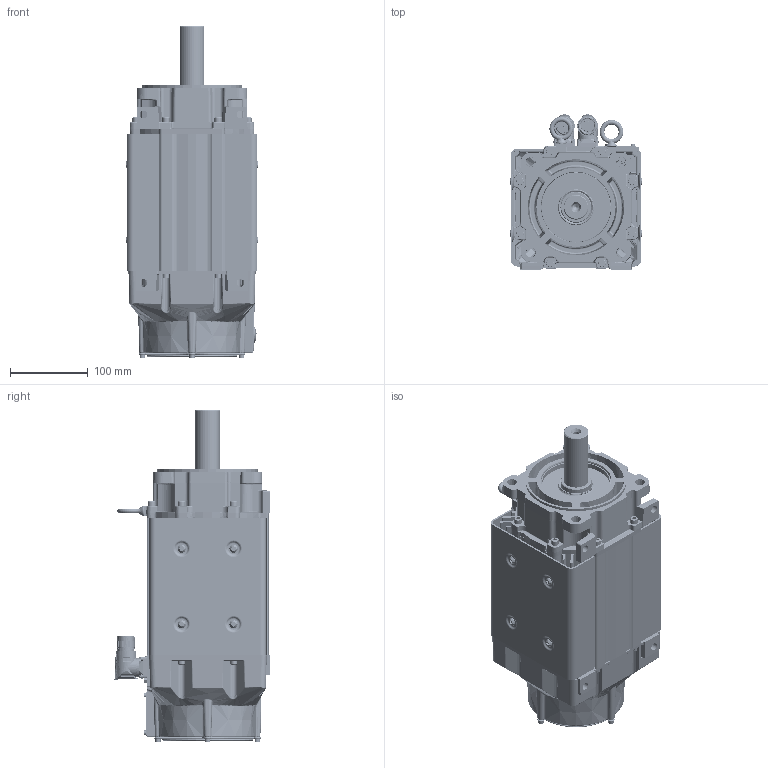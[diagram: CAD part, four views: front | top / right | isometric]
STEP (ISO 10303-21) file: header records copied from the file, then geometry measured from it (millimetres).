
FILE_DESCRIPTION((''),'2;1');
FILE_NAME('VPC-B1652A-YK72FX_ASM','2016-09-27T',('SRGaddam'),('Rockwell Automation'),'PRO/ENGINEER BY PARAMETRIC TECHNOLOGY CORPORATION, 2012480','PRO/ENGINEER BY PARAMETRIC TECHNOLOGY CORPORATION, 2012480','');
FILE_SCHEMA(('CONFIG_CONTROL_DESIGN'));
Products named in the file (42): 10001392731_AF0; 10001392729_AF3; 10001392735_ASM; CH25X125; 10001406948; 0019-1060; 10001419793; 10001587021; 10001383815_AF63; 10001383705_AF59; 10001383836_ASM; 10001421128; 10001933608; 10001713557; 10001713565_ASM; 91290A148BR; 10001289776; CH4X050; 10001336508; 10001409703; 10001587458; 91290A115; 10001299929; 10001284567; 10001430805; 10001587431; 10000231113; 10001430839_ASM; 10001609981; 0002-5006; 10001586879; 10001393622_KEYLESS; 142413_923; PRT0001_923; 142413-1_923_ASM; 10000172464; M923_ASM; 142414_623; 135798_623; 142414-1_623_ASM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
Assembly tree (82 placements, depth 4):
  VPC-B1652A-YK72FX_ASM
    10001392735_ASM
      10001392731_AF0
      10001392729_AF3
    CH25X125  x8
    10001406948
    0019-1060
    10001419793  x2
    10001587021  x8
    10001383836_ASM
      10001383815_AF63
      10001383705_AF59
    10001430839_ASM
      10001421128
      10001713565_ASM
        10001933608
        10001713557
      91290A148BR  x9
      10001289776
      CH4X050  x2
      10001336508
      10001409703
      10001587458
      91290A115  x5
      10001299929
      10001284567
      10001430805
      10001587431
      10000231113
    10001609981
    0002-5006  x2
    10001586879  x6
    10001393622_KEYLESS
    M923_ASM
      142413-1_923_ASM
        142413_923
        PRT0001_923
      10000172464  x4
    M623_ASM
      142414-1_623_ASM
        142414_623
        135798_623
      10000172464  x4
Bounding box: 170.91 x 199.8 x 427.68 mm (x, y, z)
Volume: 2753884.3 mm3; surface area: 1020987.1 mm2
Topology: 82 solids, 82 shells, 6768 faces, 17356 edges, 11046 vertices
Faces by surface type: plane 2056, cylinder 1965, bspline 1120, cone 900, torus 592, sphere 132, extrusion 3
Entity records: 228953 total; most frequent: CARTESIAN_POINT 99472, ORIENTED_EDGE 28378, DIRECTION 25084, EDGE_CURVE 14189, AXIS2_PLACEMENT_3D 9382, VERTEX_POINT 9239, VECTOR 6320, LINE 6317
